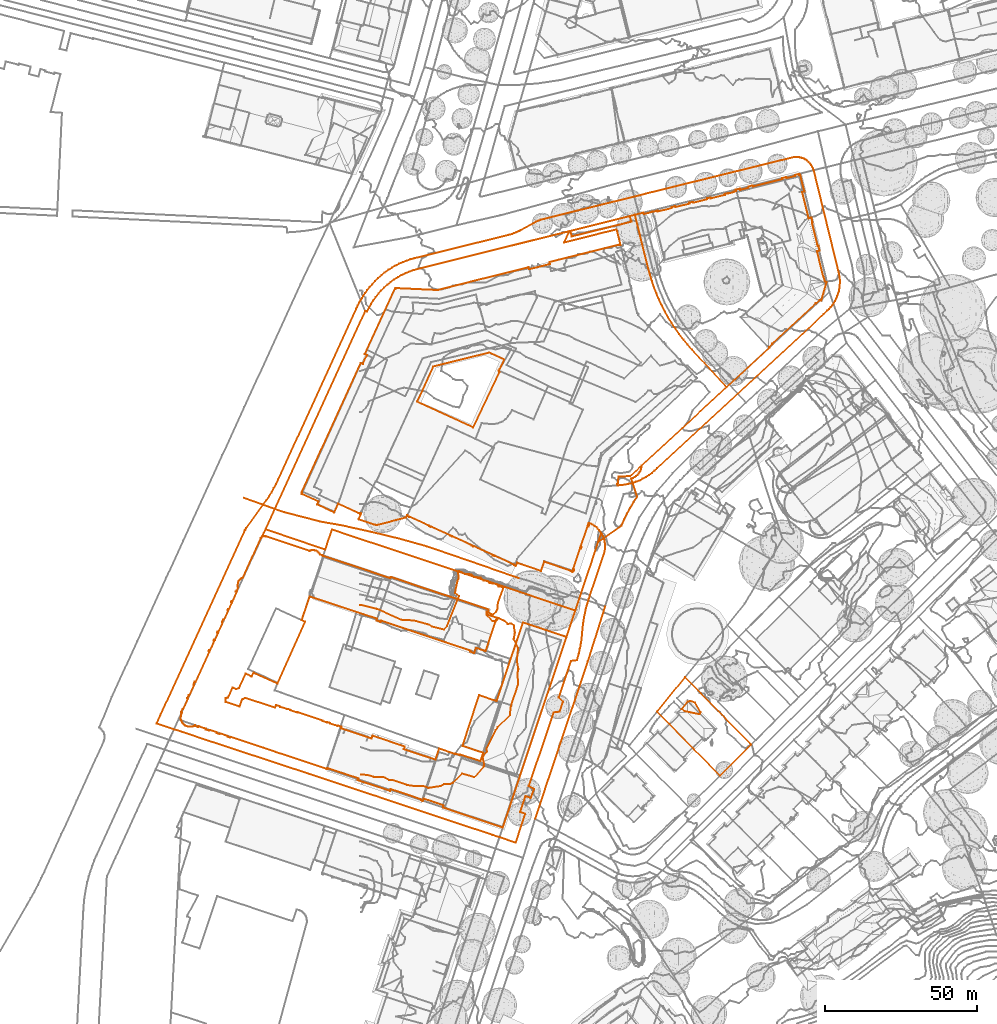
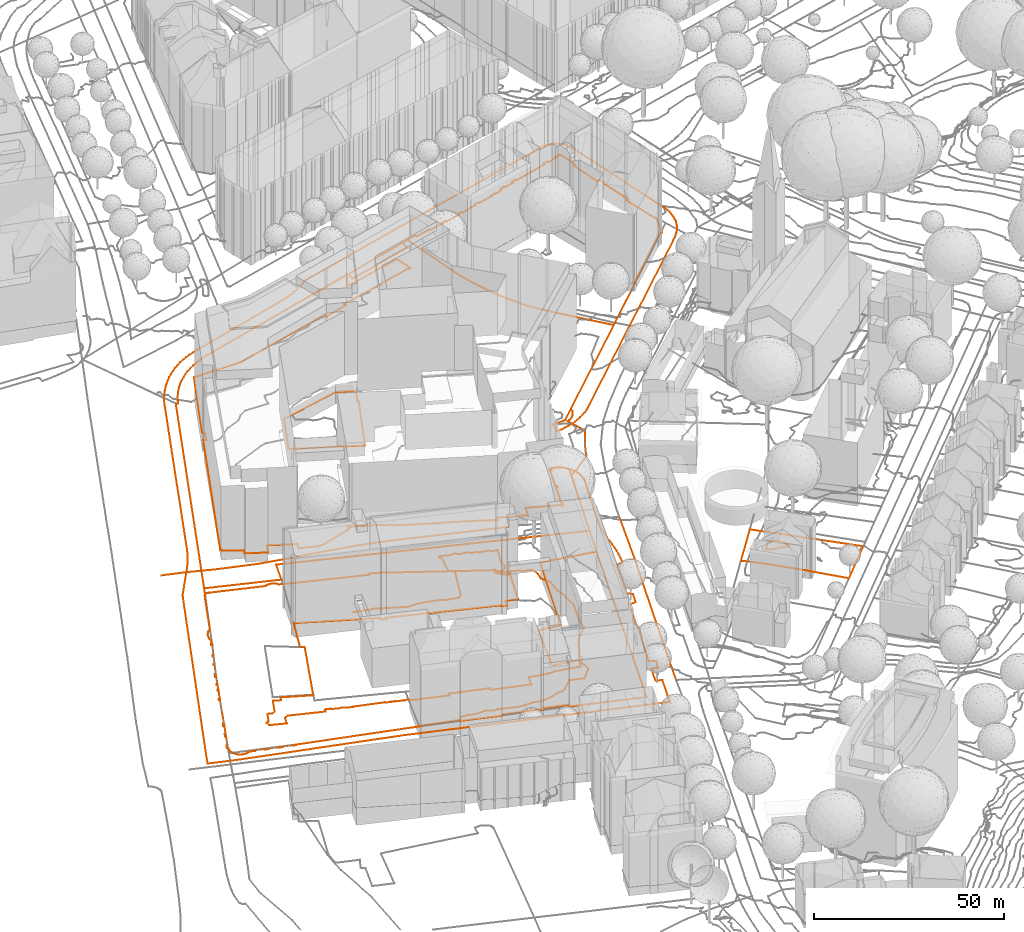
# Not in any storey, part 106 of 477: 5 civil elements, 4 geographic elements.
"""IFC4 model written with IfcOpenShell, lengths in metres."""

from ifc_helpers import new_model, entity, si_unit, frame, origin_with_axes, place, context, subcontext, project, spatial, element, save


model = new_model("IFC4")

# Units and contexts
model_context = context("Model", 3, precision=1e-05, world=origin_with_axes())
body_context = subcontext(model_context, "Body", "Model", "MODEL_VIEW")
ifc_project = project(units=[si_unit("AREAUNIT", "SQUARE_METRE"), si_unit("LENGTHUNIT", "METRE")], contexts=[model_context])

# Sites
site_1_placement = place(None, origin_with_axes())
site_1 = spatial("IfcSite", under=ifc_project, at=site_1_placement, Name="Topoexport Site")
site_2_placement = place(site_1_placement, origin_with_axes())
site_2 = spatial("IfcSite", under=site_1, at=site_2_placement, Name="TPX_ROADS")

# Civil elements
civil_element_1_placement = place(site_2_placement, frame((-39.2582679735, 219.5317364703, 532.933), z_axis=(0.0, 0.0, 1.0), x_axis=(1.0, 0.0, 0.0)))
element("IfcCivilElement", 1, at=civil_element_1_placement, inside=site_2, Name="Road 80", ObjectType="ROAD", context=body_context, shape_type="GeometricCurveSet", body=[
    entity("IfcGeometricCurveSet", [entity("IfcIndexedPolyCurve", entity("IfcCartesianPointList3D", [[0.0, 0.0, 0.0], [6.5230000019, -2.3349999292, 0.194], [13.4310000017, -4.7779998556, 0.094], [25.2050000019, -7.820999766, -0.344], [32.6140000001, -9.144999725, -0.571], [42.1390000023, -11.2609996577, -0.419], [52.4570000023, -13.7749995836, -0.249], [60.3949999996, -16.0229995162, -0.284], [90.5280000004, -26.4119991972, -0.048]]))]),
])
civil_element_2_placement = place(site_2_placement, frame((56.6267320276, 114.0017396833, 529.789), z_axis=(0.0, 0.0, 1.0), x_axis=(1.0, 0.0, 0.0)))
element("IfcCivilElement", 2, at=civil_element_2_placement, inside=site_2, Name="Road 81", ObjectType="ROAD", context=body_context, shape_type="GeometricCurveSet", body=[
    entity("IfcGeometricCurveSet", [entity("IfcIndexedPolyCurve", entity("IfcCartesianPointList3D", [[0.0, 0.0, 0.0], [8.3699999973, 25.111999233, 0.407], [17.3269999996, 51.6899984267, 1.305], [22.9800000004, 69.7789978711, 2.135]]))]),
])

# Site
site_3_placement = place(site_1_placement, origin_with_axes())
site_3 = spatial("IfcSite", under=site_1, at=site_3_placement, Name="TPX_ROADS_OUTLINES")

# Civil elements
civil_element_3_placement = place(site_3_placement, frame((-44.9892679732, 153.6817160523, 527.5269118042), z_axis=(0.0, 0.0, 1.0), x_axis=(1.0, 0.0, 0.0)))
element("IfcCivilElement", 3, at=civil_element_3_placement, inside=site_3, Name="Roads Outline 7", ObjectType="ROAD", context=body_context, shape_type="GeometricCurveSet", body=[
    entity("IfcGeometricCurveSet", [entity("IfcIndexedPolyCurve", entity("IfcCartesianPointList3D", [[0.0, 0.0, 0.0], [0.2429999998, 0.0930000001, -3.97339e-05], [0.5979999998, 0.2290000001, -9.78394e-05], [0.7620000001, 0.1560000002, -6.66504e-05], [2.2399999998, 3.473, -0.0022536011], [3.3539999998, 2.9770000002, -0.0022023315], [4.3709999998, 3.318, -0.0022536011], [6.5619999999, 8.0460000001, -0.0839130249], [8.531, 7.135, -0.0652377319], [9.1030000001, 8.3690000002, -0.0887233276], [16.9929999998, 4.7920000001, -0.0132811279], [26.0989999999, 25.1000000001, 0.0330283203], [24.9709999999, 25.615, 0.0477704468], [27.5639999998, 33.3960000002, 2.1289497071], [49.6749999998, 26.0790000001, 0.4784908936], [49.4950000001, 25.541, 0.3115805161], [49.5809999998, 25.5120000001, 0.3105062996], [50.9079999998, 25.0690000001, 0.3691649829], [51.0249999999, 25.4200000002, 0.4877984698], [80.395, 15.6070000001, 0.1663693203], [80.2760000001, 15.2550000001, 0.1662325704], [81.6239999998, 14.8050000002, 0.1895435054], [82.199, 16.523, 0.357683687], [85.3730000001, 15.4620000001, 0.5050322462], [89.0389999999, 26.4060000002, 1.4587229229], [85.8689999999, 27.4790000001, 1.4710793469], [86.4040000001, 29.0970000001, 1.4060519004], [84.997, 29.5530000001, 1.3153294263], [55.5899999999, 39.3300000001, 4.86257316], [54.3390000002, 39.7440000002, 4.8775936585], [54.176, 39.7980000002, 4.8790784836], [54.0469999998, 39.409, 4.7497140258], [32.0129999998, 46.74, 5.0022215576], [32.0490000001, 46.8490000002, 5.0026939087], [31.057, 47.1800000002, 5.002531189], [30.8199999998, 47.564, 5.000984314], [30.5219999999, 47.9030000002, 4.9996187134], [30.1699999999, 48.186, 4.991625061], [29.7760000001, 48.4060000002, 4.983085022], [29.3509999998, 48.557, 4.9772234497], [28.977, 48.6260000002, 4.9745449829], [28.5979999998, 48.6410000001, 4.9739627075], [28.2199999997, 48.6020000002, 4.9754766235], [27.852, 48.51, 4.9790479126], [27.5, 48.3670000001, 4.984598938], [13.077, 53.1830000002, 4.9722063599], [13.068, 53.155, 4.9713381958], [12.787, 53.2350000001, 4.9738186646], [12.4939999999, 53.2410000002, 4.9740046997], [12.21, 53.172, 4.9718652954], [12.074, 53.1090000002, 4.9699119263], [11.946, 53.03, 4.9674624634], [13.0490000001, 55.4410000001, 5.0357442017], [45.858, 127.213, 9.3617725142], [46.4270000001, 126.966, 9.3489542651], [47.037, 128.2310000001, 9.4359046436], [47.7179999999, 129.4610000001, 9.5883048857], [48.466, 130.6500000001, 9.6872048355], [49.281, 131.7950000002, 9.7719261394], [50.1579999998, 132.892, 9.8597721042], [51.0949999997, 133.939, 9.9155481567], [52.0899999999, 134.9310000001, 9.9998819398], [53.139, 135.8660000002, 10.0029211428], [54.2390000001, 136.74, 10.1154349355], [55.3859999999, 137.5520000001, 10.1718491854], [56.577, 138.297, 10.2006110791], [57.8079999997, 138.9740000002, 10.2688017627], [59.0750000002, 139.5820000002, 10.2946018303], [60.3739999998, 140.1170000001, 10.3372699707], [61.7009999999, 140.578, 10.4007736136], [63.0520000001, 140.9640000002, 10.4372722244], [112.8730000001, 153.3870000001, 11.4932763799], [111.1349999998, 149.6700000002, 10.730469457], [128.4270000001, 153.9720000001, 10.669809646], [129.7229999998, 148.8030000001, 10.4769594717], [129.5579999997, 148.7620000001, 10.4805641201], [129.4329999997, 148.848, 10.4872223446], [129.3960000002, 148.9990000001, 10.4940321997], [128.8139999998, 148.8530000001, 10.4964823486], [106.3190000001, 143.2350000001, 10.5661456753], [106.4840000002, 142.574, 10.5412714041], [99.6090000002, 140.8560000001, 10.3548988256], [99.4440000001, 141.517, 10.4434186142], [69.75, 134.101, 10.3742372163], [69.193, 134.0490000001, 10.3794457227], [55.824, 134.6710000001, 9.8819341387], [55.8169999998, 134.5010000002, 9.8693487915], [55.727, 134.4300000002, 9.8659746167], [55.5720000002, 134.5010000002, 9.8746773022], [45.6770000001, 113.0330000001, 8.7213396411], [46.406, 112.7000000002, 8.704925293], [46.2659999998, 112.3930000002, 8.6941912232], [46.21, 112.419, 8.6975355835], [45.1200000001, 110.0480000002, 8.5999082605], [45.1809999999, 110.02, 8.5998769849], [45.0559999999, 109.746, 8.5775127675], [44.318, 110.0820000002, 8.5655002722], [24.8819999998, 67.4820000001, 5.9784912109], [25.0359999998, 67.4110000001, 5.9710765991], [25.0729999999, 67.2510000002, 5.9543676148], [25.0019999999, 67.0970000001, 5.9382852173], [30.4869999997, 64.5860000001, 5.5750006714], [30.0239999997, 63.6270000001, 5.3738397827], [35.611, 61.0040000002, 5.2716972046], [36.9550000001, 63.865, 5.3666201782], [43.5789999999, 60.7850000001, 5.2742866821], [44.1260000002, 60.5350000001, 5.2782387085], [44.196, 60.689, 5.2757097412], [44.3289999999, 60.7380000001, 5.2748253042], [44.4840000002, 60.6670000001, 5.2748345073], [43.611, 58.76, 5.1604270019], [43.838, 58.6840000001, 5.1556538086], [48.673, 57.0390000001, 5.151483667], [49.0120000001, 56.9540000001, 5.1290744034], [49.3590000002, 56.9110000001, 5.1370450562], [49.7889999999, 56.915, 5.1757056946], [50.2140000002, 56.9850000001, 5.2137853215], [58.9350000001, 59.2860000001, 5.4536117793], [59.1880000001, 59.3530000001, 5.4843065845], [59.554, 60.1540000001, 5.7155300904], [59.7089999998, 60.0820000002, 5.7393702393], [59.764, 59.9670000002, 5.7270656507], [59.6850000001, 59.7960000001, 5.6728024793], [60.2319999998, 59.5450000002, 5.7452426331], [60.2799999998, 59.649, 5.7793715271], [66.8560000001, 56.6330000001, 5.8236779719], [66.8079999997, 56.5280000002, 5.8115976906], [67.3530000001, 56.2780000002, 5.7976999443], [67.4010000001, 56.3830000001, 5.8039206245], [73.8199999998, 53.439, 5.3748781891], [73.7710000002, 53.334, 5.3711739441], [74.318, 53.0830000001, 5.3657123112], [74.3659999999, 53.189, 5.3698321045], [80.818, 50.2280000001, 5.4194081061], [80.7689999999, 50.121, 5.4141170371], [81.3139999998, 49.871, 5.421946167], [81.3629999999, 49.9780000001, 5.4272388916], [87.7909999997, 47.03, 5.5193775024], [87.7409999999, 46.922, 5.5138522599], [88.2859999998, 46.672, 5.521821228], [88.3360000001, 46.78, 5.5271799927], [94.7689999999, 43.828, 5.3882046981], [94.719, 43.72, 5.3842139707], [95.2659999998, 43.469, 5.3807204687], [95.7539999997, 44.466, 5.4313705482], [103.5609999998, 41.7650000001, 5.1915988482], [104.605, 44.8120000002, 5.2964069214], [113.3810000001, 41.8120000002, 4.9398628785], [113.3420000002, 41.6980000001, 4.9295582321], [113.9100000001, 41.5040000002, 4.8396308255], [113.9649999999, 41.665, 4.8655922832], [114.0890000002, 41.7270000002, 4.8671855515], [114.25, 41.6730000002, 4.8314114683], [114.446, 42.2580000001, 4.8934374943], [114.085, 42.361, 4.931949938], [116.3939999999, 49.2380000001, 5.0768067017], [116.7489999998, 49.1190000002, 5.0595022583], [116.9389999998, 49.6850000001, 5.0769133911], [116.5839999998, 49.804, 5.0942178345], [118.8429999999, 56.5290000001, 5.1572601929], [119.2029999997, 56.425, 5.1894526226], [119.3939999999, 56.9940000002, 5.1114123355], [119.034, 57.098, 5.0927628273], [119.1889999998, 57.5590000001, 5.099553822], [119.8799999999, 57.294, 5.1408165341], [120.5419999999, 56.9640000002, 5.2281930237], [121.1699999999, 56.5720000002, 5.301596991], [121.7569999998, 56.122, 5.3584451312], [122.2039999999, 55.7140000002, 5.4204450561], [122.6170000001, 55.2710000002, 5.4628397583], [122.9939999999, 54.7980000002, 5.4763057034], [123.3319999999, 54.2960000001, 5.4636350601], [122.3309999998, 51.3020000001, 5.4780265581], [114.801, 28.7930000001, 4.0766587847], [111.898, 20.108, 3.7661754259], [97.5979999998, 24.885, 2.2364851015], [88.9739999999, -0.9579999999, 0.7065684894], [83.219, 0.9650000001, 0.0839964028], [77.7590000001, -15.672, 0.6686078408], [84.5929999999, -17.9249999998, 1.4952750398], [83.6779999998, -20.699, 1.4030643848], [76.8489999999, -18.4469999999, 0.8196425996], [76.781, -18.656, 0.8347319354], [75.406, -18.1949999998, 0.6290843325], [75.344, -18.372, 0.6395585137], [70.0929999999, -16.5129999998, 0.0992412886], [68.8689999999, -20.216, 0.4949069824], [58.5180000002, -16.7579999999, 0.2845406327], [58.8029999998, -15.9039999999, 0.1813511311], [48.2220000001, -12.3419999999, -0.0292769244], [47.9240000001, -13.2349999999, 0.0588646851], [37.9500000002, -9.909, -0.074362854], [38.1140000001, -9.416, -0.0975023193], [37.773, -9.3019999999, -0.1028530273], [36.767, -8.9689999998, -0.1156141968], [36.7199999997, -9.1109999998, -0.1118178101], [34.318, -8.3119999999, -0.1015791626], [34.3649999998, -8.1699999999, -0.0985457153], [33.3789999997, -7.841, -0.0965706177], [33.3319999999, -7.983, -0.0953832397], [31.7659999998, -7.4619999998, -0.0997397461], [31.8130000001, -7.3199999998, -0.100927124], [23.6630000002, -4.608, -0.2884189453], [23.6159999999, -4.75, -0.3082576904], [21.2340000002, -3.9579999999, -0.2014734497], [21.281, -3.8159999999, -0.1919917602], [20.2939999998, -3.4879999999, -0.1700903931], [20.247, -3.6299999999, -0.1795720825], [17.8649999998, -2.8369999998, -0.1321864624], [17.912, -2.6949999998, -0.1272462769], [16.8840000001, -2.3529999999, -0.1153480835], [16.4929999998, -2.223, -0.1108253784], [16.196, -3.125, -0.1458519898], [6.3829999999, 0.108, -4.61426e-05], [5.7689999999, -0.2359999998, -0.0126845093], [5.3539999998, -0.4679999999, -0.0257684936], [4.5979999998, -2.7359999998, -0.1286726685], [0.054, -1.189, -0.0647681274], [0.0, 0.0, 0.0]]))]),
])
civil_element_4_placement = place(site_3_placement, frame((17.8997320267, 251.0267160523, 534.4437292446), z_axis=(0.0, 0.0, 1.0), x_axis=(1.0, 0.0, 0.0)))
element("IfcCivilElement", 4, at=civil_element_4_placement, inside=site_3, Name="Roads Outline 9", ObjectType="ROAD", context=body_context, shape_type="GeometricCurveSet", body=[
    entity("IfcGeometricCurveSet", [entity("IfcIndexedPolyCurve", entity("IfcCartesianPointList3D", [[0.0, 0.0, 0.0], [5.2969999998, 11.594, 0.8061418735], [23.5970000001, 16.155, 0.3098576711], [28.594, 13.9060000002, 0.2033725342], [27.125, 10.7010000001, -0.0943390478], [27.0159999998, 10.7510000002, -0.0916174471], [26.7659999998, 10.206, -0.110626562], [26.9199999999, 10.135, -0.1106286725], [26.9700000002, 10.0020000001, -0.1123598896], [26.9500000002, 9.959, -0.1129406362], [26.8999999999, 9.848, -0.1141976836], [27.0150000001, 9.7950000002, -0.1156570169], [18.3700000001, -8.3909999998, -0.1647673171], [0.0, 0.0, 0.0]]))]),
])
civil_element_5_placement = place(site_3_placement, frame((-67.6912679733, 145.3517160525, 527.4249481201), z_axis=(0.0, 0.0, 1.0), x_axis=(1.0, 0.0, 0.0)))
element("IfcCivilElement", 5, at=civil_element_5_placement, inside=site_3, Name="Roads Outline 10", ObjectType="ROAD", context=body_context, shape_type="GeometricCurveSet", body=[
    entity("IfcGeometricCurveSet", [entity("IfcIndexedPolyCurve", entity("IfcCartesianPointList3D", [[0.0, 0.0, 0.0], [1.3199999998, 2.888, -0.2080340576], [28.98, 63.314, 5.1346878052], [29.0800000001, 63.547, 5.1362996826], [29.1919999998, 63.7749999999, 5.1377330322], [29.4440000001, 64.203, 5.1404237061], [35.1090000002, 72.057, 5.4727700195], [36.0279999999, 73.3149999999, 5.8187476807], [36.9020000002, 74.605, 5.9544064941], [37.7280000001, 75.926, 6.0923600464], [38.5120000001, 77.287, 6.2344908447], [39.2459999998, 78.676, 6.3505656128], [39.9300000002, 80.0899999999, 6.4019411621], [65.6069999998, 136.2489999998, 9.4472509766], [66.0660000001, 137.237, 9.4255495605], [66.5610000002, 138.209, 9.4437701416], [67.091, 139.1609999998, 9.5007259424], [67.466, 139.798, 9.5336197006], [67.8560000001, 140.4249999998, 9.5609431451], [68.5189999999, 141.4179999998, 9.6235914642], [69.2209999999, 142.3829999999, 9.6727223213], [69.9619999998, 143.3189999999, 9.758619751], [70.7400000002, 144.2239999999, 9.8162144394], [71.7170000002, 145.298, 9.9165192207], [72.75, 146.3189999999, 10.0064893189], [73.8360000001, 147.2819999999, 10.0571101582], [74.9730000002, 148.1849999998, 10.1214653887], [76.1570000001, 149.0259999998, 10.1744799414], [77.304, 149.754, 10.2184897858], [78.486, 150.422, 10.2771569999], [79.7000000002, 151.031, 10.3132679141], [80.9440000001, 151.5769999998, 10.3484464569], [82.213, 152.0599999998, 10.4020685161], [83.5049999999, 152.4789999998, 10.4397841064], [84.8169999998, 152.8319999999, 10.4890566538], [115.949, 160.568, 11.2608643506], [116.7119999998, 160.7929999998, 11.282352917], [117.463, 161.0519999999, 11.298443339], [118.202, 161.3459999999, 11.3005697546], [118.9300000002, 161.6749999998, 11.2897838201], [119.642, 162.0359999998, 11.3221643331], [123.8250000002, 164.3729999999, 11.4012335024], [124.6129999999, 164.7999999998, 11.4377898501], [125.4300000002, 165.166, 11.4407610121], [126.3080000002, 165.4819999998, 11.4255050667], [127.2080000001, 165.7279999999, 11.4200615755], [157.0869999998, 173.125, 11.7847085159], [208.7059999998, 185.906, 12.2898109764], [209.3569999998, 186.027, 12.2816119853], [210.017, 186.075, 12.2716592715], [210.679, 186.0499999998, 12.2661109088], [211.3339999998, 185.95, 12.2622229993], [211.9730000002, 185.7779999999, 12.2609329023], [212.5890000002, 185.5359999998, 12.2643888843], [213.1749999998, 185.227, 12.2388592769], [213.7089999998, 184.8639999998, 12.2177686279], [214.2000000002, 184.4449999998, 12.2110118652], [214.6430000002, 183.9749999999, 12.1675744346], [215.0320000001, 183.46, 12.1370057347], [215.3629999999, 182.906, 12.1216642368], [215.6310000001, 182.3189999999, 12.0964372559], [215.835, 181.706, 12.0427866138], [224.0249999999, 148.2609999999, 10.5233550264], [224.2149999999, 147.392, 10.5306896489], [224.3450000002, 146.513, 10.5014225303], [224.4139999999, 145.6259999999, 10.4770400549], [224.4219999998, 144.737, 10.4468352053], [224.3689999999, 143.8489999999, 10.4012084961], [224.2549999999, 142.9669999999, 10.3453725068], [224.0809999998, 142.095, 10.3045546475], [223.841, 141.2219999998, 10.2810139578], [223.5410000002, 140.3669999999, 10.2483413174], [223.182, 139.5349999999, 10.1858411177], [222.7659999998, 138.7309999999, 10.1429102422], [222.2940000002, 137.9579999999, 10.0963570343], [221.8450000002, 137.3199999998, 10.070381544], [221.3569999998, 136.709, 10.0314658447], [220.8339999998, 136.1299999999, 9.9862237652], [220.2770000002, 135.5829999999, 9.9456068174], [219.1400000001, 134.504, 9.8586848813], [164.4470000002, 83.9139999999, 6.8842999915], [163.5800000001, 83.101, 6.8217709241], [162.6669999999, 82.341, 6.7952735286], [161.71, 81.6369999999, 6.774864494], [160.7119999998, 80.9909999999, 6.7314496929], [159.6779999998, 80.406, 6.6890435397], [158.611, 79.8839999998, 6.6683142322], [157.5150000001, 79.426, 6.6583448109], [156.3930000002, 79.034, 6.6084774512], [155.1949999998, 78.7449999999, 6.5510893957], [153.9849999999, 78.513, 6.5144450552], [152.7650000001, 78.3369999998, 6.4355364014], [151.5380000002, 78.219, 6.4139226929], [151.4610000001, 78.2139999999, 6.4141913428], [151.3849999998, 78.2079999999, 6.414349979], [151.3450000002, 78.2049999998, 6.414423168], [151.3100000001, 78.652, 6.4229099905], [151.4419999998, 78.7949999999, 6.4209424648], [151.5279999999, 78.97, 6.4194706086], [151.5600000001, 79.162, 6.418835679], [151.7000000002, 81.1309999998, 6.5857669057], [155.5440000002, 81.2339999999, 6.6736287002], [159.3330000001, 84.7559999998, 6.9124994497], [187.2349999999, 110.541, 8.3438452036], [189.46, 112.5959999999, 8.520529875], [201.2590000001, 123.503, 9.1507131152], [201.122, 123.652, 9.160181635], [202.25, 124.6869999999, 9.2265585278], [202.182, 124.76, 9.2310877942], [216.514, 138.044, 10.0416054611], [216.5819999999, 137.9709999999, 10.0351867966], [217.7179999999, 139.0209999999, 10.0988297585], [217.9670000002, 138.9469999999, 10.0947136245], [218.2370000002, 138.8669999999, 10.1007628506], [218.3709999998, 139.3199999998, 10.1315998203], [220.0389999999, 144.963, 10.5338691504], [219.4870000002, 145.2079999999, 10.562672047], [219.142, 146.5869999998, 10.6485200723], [219.0249999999, 146.5559999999, 10.6520296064], [216.9070000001, 155.129, 11.0879605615], [217.673, 155.318, 11.058412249], [217.77, 155.3419999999, 11.0544535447], [217.3849999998, 156.9039999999, 11.1443709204], [217.2880000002, 156.8799999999, 11.1445516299], [217.1320000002, 156.8419999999, 11.1451369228], [215.2370000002, 164.513, 11.4516099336], [215.392, 164.551, 11.4595112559], [215.48, 164.5729999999, 11.4639176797], [215.0950000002, 166.1299999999, 11.5391629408], [215.0079999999, 166.1089999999, 11.5384063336], [214.176, 165.9029999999, 11.5170725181], [212.0359999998, 174.567, 12.028749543], [212.764, 174.747, 11.9984218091], [211.3900000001, 180.3019999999, 12.2203479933], [211.0959999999, 180.196, 12.2193510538], [211.0159999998, 180.5159999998, 12.2295227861], [209.6839999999, 180.1849999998, 12.2097248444], [209.764, 179.865, 12.1970250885], [206.9020000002, 179.152, 12.2304413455], [206.8220000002, 179.4719999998, 12.2356286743], [205.483, 179.1369999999, 12.2431404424], [205.5619999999, 178.818, 12.2292600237], [195.8360000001, 176.395, 12.0196618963], [195.7599999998, 176.716, 12.0636403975], [194.4139999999, 176.3809999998, 12.0366424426], [194.5109999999, 175.993, 11.9848913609], [191.6690000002, 175.284, 11.8727587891], [191.5720000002, 175.672, 11.921329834], [190.213, 175.334, 11.8610841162], [190.3309999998, 174.8589999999, 11.8016062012], [189.5159999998, 174.6569999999, 11.7808727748], [189.5520000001, 174.5119999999, 11.7614297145], [187.784, 174.0719999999, 11.7751818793], [187.7480000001, 174.2179999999, 11.7946209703], [186.602, 173.933, 11.8109434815], [186.6740000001, 173.642, 11.7724528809], [182.0210000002, 172.4879999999, 11.8542769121], [181.9479999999, 172.781, 11.893157], [180.7859999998, 172.4939999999, 11.8610445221], [180.8590000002, 172.2, 11.822419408], [176.2039999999, 171.0449999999, 11.7236728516], [176.1320000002, 171.3369999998, 11.7620677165], [174.9679999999, 171.047, 11.7446042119], [175.04, 170.7559999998, 11.7034841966], [170.3829999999, 169.601, 11.7016027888], [170.3119999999, 169.888, 11.7368377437], [169.1469999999, 169.601, 11.7626066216], [169.219, 169.3119999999, 11.7259874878], [164.5589999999, 168.156, 11.8850723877], [164.4870000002, 168.4469999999, 11.8903916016], [162.9440000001, 168.064, 11.8732413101], [160.102, 167.3599999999, 11.9661905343], [159.9909999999, 167.8049999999, 11.9655054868], [157.102, 167.085, 11.932702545], [155.4679999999, 166.6779999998, 11.8506757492], [155.9309999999, 164.824, 11.1555864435], [150.8250000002, 163.558, 11.2347489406], [136.3879999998, 159.9809999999, 11.1586470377], [135.9330000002, 161.8059999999, 11.6267453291], [135.5750000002, 161.7169999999, 11.595240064], [85.7540000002, 149.294, 10.5392359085], [84.4029999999, 148.9079999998, 10.5027372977], [83.0759999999, 148.4469999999, 10.4392336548], [81.7770000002, 147.912, 10.3965655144], [80.5099999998, 147.304, 10.3707654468], [79.2790000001, 146.6269999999, 10.3025747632], [78.088, 145.882, 10.2738128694], [76.9410000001, 145.0699999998, 10.2173986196], [75.841, 144.196, 10.1048848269], [74.7919999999, 143.2609999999, 10.1018456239], [73.7969999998, 142.2689999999, 10.0175118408], [72.8599999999, 141.2219999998, 9.9617357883], [71.983, 140.125, 9.8738898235], [71.1680000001, 138.98, 9.7891685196], [70.4199999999, 137.791, 9.6902685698], [69.7390000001, 136.561, 9.5378683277], [69.1290000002, 135.2959999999, 9.4509179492], [68.5600000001, 135.5429999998, 9.4637361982], [35.7510000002, 63.7709999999, 5.1377078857], [34.648, 61.3599999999, 5.0694261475], [34.4360000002, 61.162, 5.063612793], [34.2790000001, 60.9169999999, 5.0565247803], [34.2519999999, 60.929, 5.0568719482], [28.3500000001, 47.9649999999, 4.0283361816], [27.9449999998, 47.7619999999, 3.9721469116], [27.5800000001, 47.493, 3.897689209], [27.2659999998, 47.1669999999, 3.8058863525], [27.0120000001, 46.7919999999, 3.6982203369], [26.824, 46.3799999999, 3.5799312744], [26.7080000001, 45.942, 3.4569385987], [26.6680000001, 45.49, 3.330475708], [26.7050000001, 45.0389999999, 3.2009771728], [26.8169999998, 44.5999999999, 3.0729533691], [26.3999999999, 43.6839999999, 2.8050100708], [26.2629999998, 43.747, 2.8234632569], [26.0410000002, 43.2729999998, 2.6846081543], [26.3149999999, 43.1479999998, 2.6479489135], [24.9539999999, 40.173, 1.7747946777], [24.682, 40.297, 1.811569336], [24.483, 39.8739999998, 1.6861203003], [24.7590000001, 39.7479999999, 1.6487525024], [23.7230000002, 37.4849999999, 0.9886968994], [23.4399999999, 37.6139999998, 1.0261749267], [23.2590000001, 37.203, 0.9067681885], [23.537, 37.0769999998, 0.8701617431], [22.173, 34.0959999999, 0.1540565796], [21.9049999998, 34.2179999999, 0.1575488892], [21.6880000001, 33.7309999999, 0.1436082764], [21.4900000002, 33.2859999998, 0.130440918], [21.7480000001, 33.1679999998, 0.1255290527], [20.3790000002, 30.1739999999, 0.0898272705], [20.1200000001, 30.2929999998, 0.086166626], [19.9300000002, 29.8909999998, 0.0985328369], [20.1940000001, 29.77, 0.1022550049], [19.156, 27.5019999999, 0.3770836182], [18.898, 27.6199999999, 0.3506949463], [18.7089999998, 27.2119999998, 0.4149650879], [18.969, 27.0929999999, 0.4115804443], [17.5980000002, 24.094, 0.0449752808], [17.341, 24.2109999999, 0.0535374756], [17.125, 23.7349999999, 0.0187032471], [17.3799999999, 23.618, 0.0101410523], [12.8250000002, 13.659, 0.0802496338], [12.5610000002, 13.78, 0.0782113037], [12.3289999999, 13.29, 0.0863754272], [12.1209999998, 12.852, 0.0923904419], [12.398, 12.726, 0.0941207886], [10.7779999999, 9.1839999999, 0.1015988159], [10.5299999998, 9.297, 0.1015505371], [10.077, 8.3059999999, 0.1012352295], [10.3250000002, 8.193, 0.0948624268], [8.7400000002, 4.727, -0.075805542], [8.4920000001, 4.8399999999, -0.0682602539], [8.0419999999, 3.858, -0.1674547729], [8.29, 3.7449999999, -0.1832419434], [8.4789999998, 3.6579999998, -0.1953966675], [8.2609999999, 3.2879999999, -0.2402606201], [8.0970000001, 2.8899999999, -0.2081951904], [7.9929999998, 2.473, -0.174598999], [7.949, 2.0449999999, -0.1181751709], [7.966, 1.615, -0.0490980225], [8.0449999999, 1.192, -0.0004852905], [8.1830000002, 0.7849999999, 0.0029179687], [8.4070000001, 0.3539999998, 0.0065219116], [8.6979999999, -0.0350000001, -0.0007476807], [9.0469999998, -0.372, -0.0079467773], [9.446, -0.648, -0.0138427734], [9.8849999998, -0.8560000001, -0.0063339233], [10.3509999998, -0.9910000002, 2.4414e-06], [10.8330000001, -1.0490000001, 0.0027247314], [11.318, -1.0290000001, 0.0017860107], [11.7930000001, -0.9300000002, -0.0028606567], [12.247, -0.7560000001, -0.0110275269], [12.6660000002, -0.5120000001, -0.0109375], [12.7420000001, -0.537, -0.0114715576], [12.6499999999, -0.8120000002, -0.0083991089], [13.6749999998, -1.1530000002, 0.0076060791], [13.7680000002, -0.878, -0.0053013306], [16.273, -1.7120000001, 0.0339700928], [16.1809999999, -1.987, 0.0480020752], [17.2059999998, -2.328, 0.0654017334], [17.298, -2.0520000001, 0.0513187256], [19.8220000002, -2.892, 0.1035297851], [19.73, -3.1670000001, 0.1297474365], [20.764, -3.5110000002, 0.162543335], [20.8560000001, -3.236, 0.1363256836], [23.3509999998, -4.0660000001, 0.2213534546], [23.2590000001, -4.341, 0.2517840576], [24.2170000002, -4.6600000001, 0.2870835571], [24.3089999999, -4.385, 0.2566529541], [34.9399999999, -7.9230000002, 0.6541118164], [55.8319999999, -14.8700000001, 1.4243275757], [56.1499999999, -14.976, 1.436600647], [56.2519999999, -14.6840000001, 1.4027918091], [66.2829999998, -18.0210000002, 1.7891009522], [66.094, -18.5900000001, 1.8549818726], [76.6800000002, -22.112, 1.9598271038], [76.8689999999, -21.5420000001, 1.9469676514], [86.9369999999, -24.8910000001, 2.0656298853], [86.8399999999, -25.1850000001, 2.0549752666], [87.1439999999, -25.2860000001, 2.063510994], [87.2770000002, -25.3300000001, 2.0684170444], [87.4569999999, -25.3900000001, 2.0755545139], [87.696, -24.6680000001, 2.0904516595], [94.2710000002, -26.8570000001, 2.2286066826], [94.0329999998, -27.5790000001, 2.1614702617], [113.696, -34.1230000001, 2.2453099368], [119.3870000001, -17.0790000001, 2.8536873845], [134.6000000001, 28.4379999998, 3.86813911], [137.503, 37.1229999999, 4.1786224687], [145.0329999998, 59.632, 5.5799902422], [146.034, 62.6259999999, 5.5655987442], [146.3539999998, 62.0799999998, 5.5626339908], [146.6310000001, 61.5109999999, 5.5568430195], [146.8650000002, 60.922, 5.5518937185], [147.0690000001, 60.2519999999, 5.5585459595], [147.2140000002, 59.567, 5.5545223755], [147.3020000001, 58.808, 5.5250959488], [147.3190000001, 58.044, 5.4822234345], [147.2629999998, 57.2819999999, 5.4468234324], [147.1370000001, 56.5279999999, 5.4309997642], [146.9399999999, 55.79, 5.398373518], [141.9199999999, 40.8489999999, 4.5257516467], [141.3960000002, 39.156, 4.3576751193], [140.9419999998, 37.443, 4.2937663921], [140.5600000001, 35.713, 4.2514407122], [140.2590000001, 34.031, 4.1914996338], [140.0260000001, 32.338, 4.1315312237], [139.8599999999, 30.6369999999, 4.0769773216], [139.727, 29.04, 4.0401495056], [139.537, 27.449, 3.9737678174], [139.301, 25.922, 3.9213971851], [139.014, 24.4029999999, 3.8761164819], [138.6749999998, 22.895, 3.8407239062], [138.0729999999, 20.841, 3.7760707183], [136.0809999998, 20.548, 3.686087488], [132.0780000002, 8.6169999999, 3.2707199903], [133.4720000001, 7.1949999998, 3.3456655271], [132.355, 3.9029999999, 3.230603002], [130.406, 3.6669999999, 3.2417564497], [122.2450000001, -20.5890000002, 2.5521132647], [123.9449999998, -21.4620000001, 2.6041659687], [122.8689999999, -24.4110000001, 2.5248577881], [121.1209999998, -23.811, 2.5987880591], [119.3810000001, -29.0380000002, 2.4384621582], [121.1140000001, -29.6370000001, 2.4384377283], [117.949, -39.112, 2.2323994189], [112.6260000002, -37.341, 2.1813179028], [110.3289999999, -36.577, 2.1452527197], [50.2590000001, -16.5890000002, 1.6233043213], [8.4909999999, -2.8030000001, 0.0950447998], [5.7220000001, -1.889, 0.0430015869], [0.0, 0.0, 0.0]]))]),
])

# Site
site_4_placement = place(site_1_placement, origin_with_axes())
site_4 = spatial("IfcSite", under=site_1, at=site_4_placement, Name="TPX_CADASTRES")

# Geographic elements
geographic_element_1_placement = place(site_4_placement, frame((-31.9402679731, 209.1227160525, 532.5626560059), z_axis=(0.0, 0.0, 1.0), x_axis=(1.0, 0.0, 0.0)))
element("IfcGeographicElement", 6, at=geographic_element_1_placement, inside=site_4, Name="Cadastre 20", PredefinedType="NOTDEFINED", context=body_context, shape_type="GeometricCurveSet", body=[
    entity("IfcGeometricCurveSet", [entity("IfcIndexedPolyCurve", entity("IfcCartesianPointList3D", [[0.0, 0.0, 0.0], [32.8089999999, 71.7719999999, 4.3260283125], [33.378, 71.5249999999, 4.3132100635], [33.9879999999, 72.79, 4.4001604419], [34.6689999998, 74.02, 4.5525606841], [35.4169999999, 75.209, 4.6514606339], [36.2319999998, 76.3540000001, 4.7361819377], [37.1089999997, 77.4509999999, 4.8240279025], [38.0459999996, 78.4979999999, 4.8798039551], [39.0409999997, 79.49, 4.9641377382], [40.0899999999, 80.425, 4.9671769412], [41.1899999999, 81.2989999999, 5.0796907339], [42.3369999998, 82.111, 5.1361049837], [43.5279999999, 82.8559999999, 5.1648668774], [44.7589999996, 83.5330000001, 5.233057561], [46.0260000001, 84.1410000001, 5.2588576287], [47.3249999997, 84.676, 5.301525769], [48.6519999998, 85.1369999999, 5.365029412], [50.003, 85.523, 5.4015280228], [121.3509999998, 103.314, 6.7949946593], [125.7289999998, 85.7379999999, 5.5020342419], [126.2949999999, 83.6259999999, 5.3640962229], [126.9359999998, 81.5349999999, 5.3456884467], [127.6510000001, 79.469, 5.2636671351], [128.4409999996, 77.429, 5.1528542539], [129.3029999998, 75.4199999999, 4.9462342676], [130.2369999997, 73.442, 4.8442534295], [131.2409999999, 71.5, 4.6616690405], [132.3139999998, 69.595, 4.6152876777], [133.4539999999, 67.7290000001, 4.4914825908], [134.6609999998, 65.906, 4.2260550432], [135.932, 64.1269999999, 4.1314208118], [137.2649999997, 62.395, 4.0915792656], [138.6599999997, 60.7109999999, 3.9946436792], [140.1149999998, 59.0789999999, 3.8549652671], [151.4839999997, 46.77, 3.2061373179], [123.5819999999, 20.9849999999, 1.774791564], [123.5129999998, 20.4080000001, 1.7312735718], [123.3729999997, 19.845, 1.7088159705], [123.1639999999, 19.3030000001, 1.69483315], [122.8909999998, 18.791, 1.7018596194], [122.5559999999, 18.3159999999, 1.673972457], [122.165, 17.8859999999, 1.639748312], [121.7249999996, 17.5079999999, 1.6010590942], [121.2409999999, 17.1869999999, 1.5600567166], [120.7209999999, 16.929, 1.5255376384], [120.173, 16.736, 1.4984212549], [122.0579999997, 10.804, 1.3674354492], [120.8989999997, 8.959, 1.2667618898], [119.8029999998, 7.077, 1.1723711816], [118.7709999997, 5.1580000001, 1.0717402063], [117.8019999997, 3.2069999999, 0.9603943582], [116.8999999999, 1.2239999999, 0.8546313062], [109.2819999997, -4.139, 0.4422823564], [101.7519999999, -26.648, -0.959085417], [21.8319999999, -0.05, -0.0003143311], [19.6549999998, -6.615, -0.0689628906], [0.0, 0.0, 0.0]]))]),
])
geographic_element_2_placement = place(site_4_placement, frame((96.6947320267, 149.3327160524, 532.6432958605), z_axis=(0.0, 0.0, 1.0), x_axis=(1.0, 0.0, 0.0)))
element("IfcGeographicElement", 7, at=geographic_element_2_placement, inside=site_4, Name="Cadastre 99", PredefinedType="NOTDEFINED", context=body_context, shape_type="GeometricCurveSet", body=[
    entity("IfcGeometricCurveSet", [entity("IfcIndexedPolyCurve", entity("IfcCartesianPointList3D", [[0.0, 0.0, 0.0], [9.2200000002, 11.3230000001, -0.0210373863], [30.9449999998, -10.807, 0.3610688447], [20.656, -21.03, -0.1336384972], [11.912, -12.1270000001, 0.2428000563], [4.0920000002, -4.166, 0.283240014], [0.0, 0.0, 0.0]]))]),
])

# Site
site_5_placement = place(site_1_placement, origin_with_axes())
site_5 = spatial("IfcSite", under=site_1, at=site_5_placement, Name="TPX_CONTOUR_LINES")

# Geographic elements
geographic_element_3_placement = place(site_5_placement, frame((104.8084620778, 150.1707160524, 533.0), z_axis=(0.0, 0.0, 1.0), x_axis=(1.0, 0.0, 0.0)))
element("IfcGeographicElement", 8, at=geographic_element_3_placement, inside=site_5, Name="Contour Line 533.0 m", PredefinedType="NOTDEFINED", context=body_context, shape_type="GeometricCurveSet", body=[
    entity("IfcGeometricCurveSet", [entity("IfcIndexedPolyCurve", entity("IfcCartesianPointList3D", [[6.1345441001, -1.0, 0.0], [5.8692699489, -1.7537091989, 0.0], [0.8692699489, -0.759643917, 0.0], [0.0, 0.0, 0.0], [1.8692699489, 2.3717472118, 0.0], [2.8692699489, 2.6266478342, 0.0], [4.3286113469, 2.0, 0.0], [6.1345441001, -1.0, 0.0]]))]),
])
geographic_element_4_placement = place(site_5_placement, frame((-0.8222679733, 128.6796822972, 529.0), z_axis=(0.0, 0.0, 1.0), x_axis=(1.0, 0.0, 0.0)))
element("IfcGeographicElement", 9, at=geographic_element_4_placement, inside=site_5, Name="Contour Line 529.0 m", PredefinedType="NOTDEFINED", context=body_context, shape_type="GeometricCurveSet", body=[
    entity("IfcGeometricCurveSet", [entity("IfcIndexedPolyCurve", entity("IfcCartesianPointList3D", [[0.0, 0.0, 0.0], [2.5, -0.2619602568, 0.0], [4.5, -0.8375973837, 0.0], [7.5, -0.8290881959, 0.0], [9.5, -1.8127951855, 0.0], [10.5, -1.8118508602, 0.0], [15.5, -3.5171540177, 0.0], [17.5, -3.8346586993, 0.0], [20.5, -3.7864122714, 0.0], [22.5, -4.435026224, 0.0], [26.5, -3.8251018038, 0.0], [27.5, -3.2081127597, 0.0], [29.5, -3.2232519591, 0.0], [30.5, -2.7126902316, 0.0], [33.5, 0.2402375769, 0.0], [37.5, -0.9669101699, 0.0], [40.6120689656, 2.4910337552, 0.0], [40.7041254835, 3.4910337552, 0.0], [40.2742564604, 5.4910337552, 0.0], [40.6546932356, 6.4910337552, 0.0], [41.6680280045, 7.4910337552, 0.0], [41.4458077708, 8.4910337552, 0.0], [44.5046012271, 14.4910337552, 0.0], [45.1840527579, 15.4910337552, 0.0], [49.1739659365, 19.4910337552, 0.0], [49.5, 22.423645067, 0.0], [51.8295628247, 29.4910337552, 0.0], [51.7480826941, 33.4910337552, 0.0], [51.9567126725, 34.4910337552, 0.0], [51.5044025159, 37.4910337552, 0.0], [51.8984786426, 41.4910337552, 0.0], [50.4476472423, 44.4910337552, 0.0], [50.8234200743, 46.4910337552, 0.0], [50.5, 48.8691098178, 0.0], [49.5279720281, 49.4910337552, 0.0], [48.5, 49.4020129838, 0.0], [47.5, 50.2601407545, 0.0], [45.5, 51.3117591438, 0.0], [44.5, 50.2505404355, 0.0], [43.5, 50.3443115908, 0.0], [41.4736972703, 52.4910337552, 0.0], [41.5, 53.5177363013, 0.0], [43.5, 52.4229969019, 0.0], [44.7198233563, 53.4910337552, 0.0], [45.1348122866, 54.4910337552, 0.0], [45.2491838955, 56.4910337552, 0.0], [47.1225310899, 61.4910337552, 0.0], [45.5, 61.6668850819, 0.0], [44.7700979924, 62.4910337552, 0.0], [42.5, 62.8275297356, 0.0], [41.8943941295, 63.4910337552, 0.0], [40.5, 63.68624716, 0.0], [39.5, 64.6185194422, 0.0], [37.5, 64.7814172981, 0.0], [36.5, 65.6545406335, 0.0], [34.5, 65.7857179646, 0.0], [32.5, 66.7127892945, 0.0], [32.1414722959, 66.4910337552, 0.0], [32.3819616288, 64.4910337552, 0.0], [31.9317228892, 63.4910337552, 0.0], [31.137152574, 59.4910337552, 0.0], [32.4335612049, 58.4910337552, 0.0], [28.5, 48.6579006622, 0.0], [27.5, 47.5229391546, 0.0], [23.6313412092, 48.4910337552, 0.0], [22.5, 49.2073458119, 0.0], [17.5, 50.5275330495, 0.0], [13.5, 50.7523570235, 0.0], [5.5, 54.3233729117, 0.0], [0.0, 55.671523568, 0.0]]))]),
])

save(model, "model.ifc")
